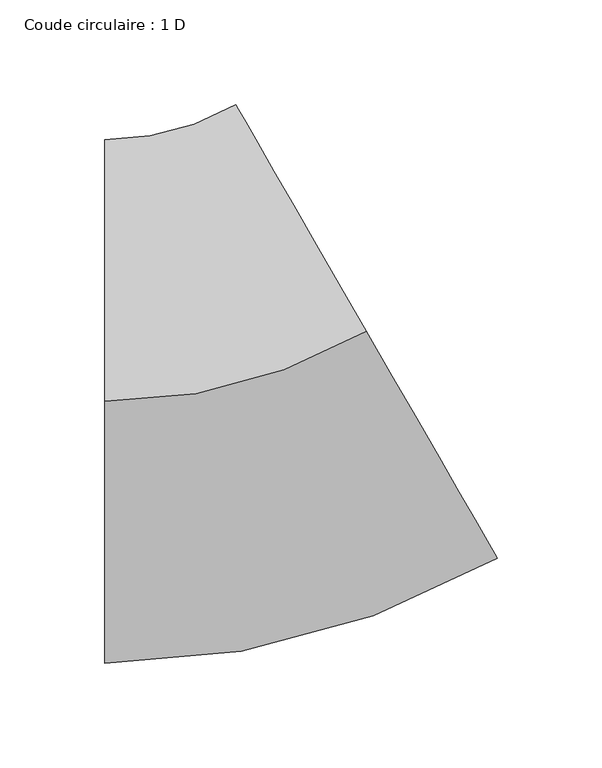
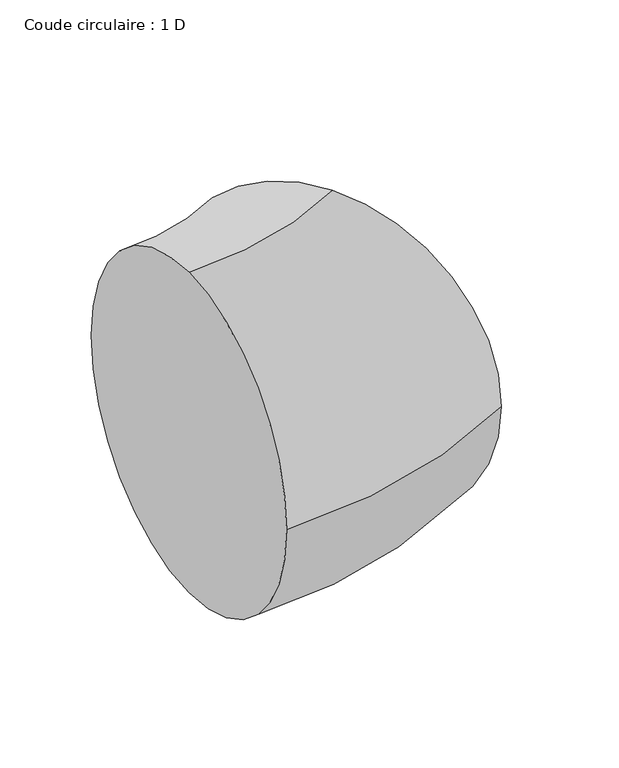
"""IFC4 building model written with IfcOpenShell, lengths in millimetres: duct fitting geometry, Coude circulaire : 1 D."""

from ifc_helpers import new_model, si_unit, point, frame, origin, place, context, project, spatial, circle_curve, ellipse_curve, trimmed, source, transform, mapped, element, save
from ifc_brep_helpers import plane_surface, revolved_surface, advanced_brep


def coude_circulaire_1_d_bb9ff7a8(model_context):
    return source(origin(), model_context, "Body", "AdvancedBrep", [
        advanced_brep(
        [(-66.9872981, 0.0, 125.0), (-66.9872981, 125.0, 0.0), (-66.9872981, 0.0, -125.0), (-66.9872981, -125.0, 0.0), (58.0127019, 33.4936491, 125.0), (120.5127019, -74.7595264, 0.0), (58.0127019, 33.4936491, -125.0), (-4.4872981, 141.7468245, 0.0)],
        [
            (0, 1, circle_curve(frame((-66.9872981, 0.0, 0.0), z_axis=(-1.0, 0.0, 0.0), x_axis=(0.0, 1.0, 0.0)), 125.0)),
            (1, 2, circle_curve(frame((-66.9872981, 0.0, 0.0), z_axis=(-1.0, 0.0, 0.0), x_axis=(0.0, 1.0, 0.0)), 125.0)),
            (2, 3, circle_curve(frame((-66.9872981, 0.0, 0.0), z_axis=(-1.0, 0.0, 0.0), x_axis=(0.0, 1.0, 0.0)), 125.0)),
            (3, 0, circle_curve(frame((-66.9872981, 0.0, 0.0), z_axis=(-1.0, 0.0, 0.0), x_axis=(0.0, 1.0, 0.0)), 125.0)),
            (4, 5, circle_curve(frame((58.0127019, 33.4936491, 0.0), z_axis=(0.8660254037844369, 0.500000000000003, 0.0), x_axis=(-0.500000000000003, 0.8660254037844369, 0.0)), 125.0)),
            (5, 6, circle_curve(frame((58.0127019, 33.4936491, 0.0), z_axis=(0.8660254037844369, 0.500000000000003, 0.0), x_axis=(-0.500000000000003, 0.8660254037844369, 0.0)), 125.0)),
            (6, 7, circle_curve(frame((58.0127019, 33.4936491, 0.0), z_axis=(0.8660254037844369, 0.500000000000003, 0.0), x_axis=(-0.500000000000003, 0.8660254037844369, 0.0)), 125.0)),
            (7, 4, circle_curve(frame((58.0127019, 33.4936491, 0.0), z_axis=(0.8660254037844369, 0.500000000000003, 0.0), x_axis=(-0.500000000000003, 0.8660254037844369, 0.0)), 125.0)),
            (7, 1, circle_curve(frame((-66.9872981, 250.0, 0.0), z_axis=(0.0, 0.0, -1.0), x_axis=(0.0, -1.0, 0.0)), 125.0)),
            (0, 4, circle_curve(frame((-66.9872981, 250.0, 125.0), z_axis=(0.0, 0.0, 1.0), x_axis=(0.0, -1.0, 0.0)), 250.0)),
            (6, 2, circle_curve(frame((-66.9872981, 250.0, -125.0), z_axis=(0.0, 0.0, -1.0), x_axis=(0.0, -1.0, 0.0)), 250.0)),
            (5, 3, circle_curve(frame((-66.9872981, 250.0, 0.0), z_axis=(0.0, 0.0, -1.0), x_axis=(0.0, -1.0, 0.0)), 375.0)),
        ],
        [
            plane_surface(frame((-66.9872981, 0.0, 0.0), z_axis=(-1.0, 0.0, 0.0), x_axis=(0.0, 0.0, 1.0))),
            plane_surface(frame((58.0127019, 33.4936491, 0.0), z_axis=(0.866025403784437, 0.500000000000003, 0.0), x_axis=(0.0, 0.0, 1.0))),
            revolved_surface(trimmed(ellipse_curve(frame((-66.9872981, 0.0, 0.0), z_axis=(-1.0, 0.0, 0.0), x_axis=(0.0, 1.0, 0.0)), 125.0, 125.0), [point((-66.9872981, 0.0, 125.0))], [point((-66.9872981, 125.0, 0.0))], True, "CARTESIAN"), (-66.9872981, 250.0, 0.0), (0.0, 0.0, 1.0)),
            revolved_surface(trimmed(ellipse_curve(frame((-66.9872981, 0.0, 0.0), z_axis=(-1.0, 0.0, 0.0), x_axis=(0.0, 1.0, 0.0)), 125.0, 125.0), [point((-66.9872981, 125.0, 0.0))], [point((-66.9872981, 0.0, -125.0))], True, "CARTESIAN"), (-66.9872981, 250.0, 0.0), (0.0, 0.0, 1.0)),
            revolved_surface(trimmed(ellipse_curve(frame((-66.9872981, 0.0, 0.0), z_axis=(-1.0, 0.0, 0.0), x_axis=(0.0, 1.0, 0.0)), 125.0, 125.0), [point((-66.9872981, 0.0, -125.0))], [point((-66.9872981, -125.0, 0.0))], True, "CARTESIAN"), (-66.9872981, 250.0, 0.0), (0.0, 0.0, 1.0)),
            revolved_surface(trimmed(ellipse_curve(frame((-66.9872981, 0.0, 0.0), z_axis=(-1.0, 0.0, 0.0), x_axis=(0.0, 1.0, 0.0)), 125.0, 125.0), [point((-66.9872981, -125.0, 0.0))], [point((-66.9872981, 0.0, 125.0))], True, "CARTESIAN"), (-66.9872981, 250.0, 0.0), (0.0, 0.0, 1.0)),
        ],
        [
            (0, [[1, 2, 3, 4]]),
            (1, [[5, 6, 7, 8]]),
            (2, [[9, -1, 10, -8]]),
            (3, [[11, -2, -9, -7]]),
            (4, [[12, -3, -11, -6]]),
            (5, [[-10, -4, -12, -5]]),
        ],
    ),
    ])


if __name__ == "__main__":
    model = new_model("IFC4")
    model_context = context("Model", 3, world=origin())
    ifc_project = project(units=[si_unit("LENGTHUNIT", "METRE", prefix="MILLI")], contexts=[model_context])
    site = spatial("IfcSite", under=ifc_project)
    building = spatial("IfcBuilding", under=site)
    placement = place(None, origin())
    coude_circulaire_1_d_shape = coude_circulaire_1_d_bb9ff7a8(model_context)
    element("IfcDuctFitting", 1, ObjectType="Coude circulaire : 1 D", at=placement, inside=building, context=model_context, shape_type="MappedRepresentation", body=[
        mapped(coude_circulaire_1_d_shape, transform((0.0, 0.0, 0.0), x_axis=(1.0, 0.0, 0.0), y_axis=(0.0, 1.0, 0.0), z_axis=(0.0, 0.0, 1.0))),
    ])
    save(model, "model.ifc")
